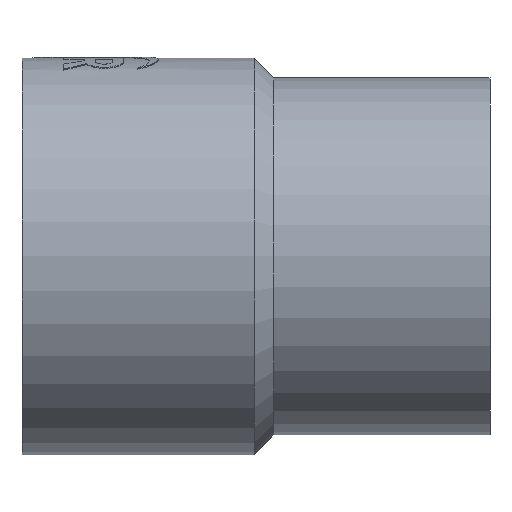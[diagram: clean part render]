
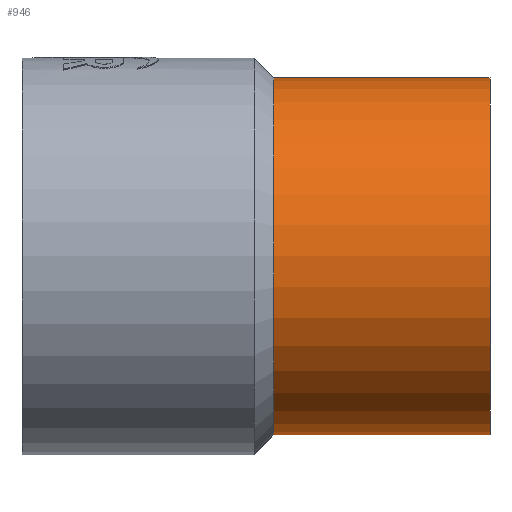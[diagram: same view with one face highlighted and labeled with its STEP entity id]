
A CAD part, front view. The second image highlights one B-rep face of the part: STEP entity #946.
In plain terms, the highlighted cylindrical face has radius 90 mm (diameter 180 mm), a partial arc.
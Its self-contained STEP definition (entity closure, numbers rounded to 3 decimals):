
#18 = ORIENTED_EDGE ( 'NONE', *, *, #3399, .F. ) ;
#30 = ORIENTED_EDGE ( 'NONE', *, *, #1086, .T. ) ;
#70 = ORIENTED_EDGE ( 'NONE', *, *, #3539, .T. ) ;
#75 = LINE ( 'NONE', #1226, #2010 ) ;
#76 = ORIENTED_EDGE ( 'NONE', *, *, #1060, .F. ) ;
#230 = CARTESIAN_POINT ( 'NONE',  ( 236., 0., 90. ) ) ;
#250 = DIRECTION ( 'NONE',  ( -1., 0., 0. ) ) ;
#416 = DIRECTION ( 'NONE',  ( 0., 0., 1. ) ) ;
#420 = DIRECTION ( 'NONE',  ( -1., 0., 0. ) ) ;
#422 = CARTESIAN_POINT ( 'NONE',  ( 236., 0., 0. ) ) ;
#441 = CYLINDRICAL_SURFACE ( 'NONE', #1624, 90. ) ;
#507 = DIRECTION ( 'NONE',  ( 0., 0., 1. ) ) ;
#516 = DIRECTION ( 'NONE',  ( -1., 0., 0. ) ) ;
#693 = CARTESIAN_POINT ( 'NONE',  ( -0.3, 0., 90. ) ) ;
#718 = CARTESIAN_POINT ( 'NONE',  ( 127., 0., 90. ) ) ;
#946 = ADVANCED_FACE ( 'NONE', ( #2286 ), #441, .T. ) ;
#994 = VERTEX_POINT ( 'NONE', #718 ) ;
#1060 = EDGE_CURVE ( 'NONE', #3160, #994, #2526, .T. ) ;
#1080 = DIRECTION ( 'NONE',  ( 0., 0., 1. ) ) ;
#1086 = EDGE_CURVE ( 'NONE', #2614, #1204, #1409, .T. ) ;
#1095 = EDGE_LOOP ( 'NONE', ( #18, #30, #70, #76 ) ) ;
#1147 = DIRECTION ( 'NONE',  ( -1., 0., 0. ) ) ;
#1190 = CARTESIAN_POINT ( 'NONE',  ( 127., 0., 0. ) ) ;
#1204 = VERTEX_POINT ( 'NONE', #230 ) ;
#1226 = CARTESIAN_POINT ( 'NONE',  ( -0.3, 0., -90. ) ) ;
#1250 = CARTESIAN_POINT ( 'NONE',  ( -0.3, 0., 0. ) ) ;
#1409 = CIRCLE ( 'NONE', #2889, 90. ) ;
#1624 = AXIS2_PLACEMENT_3D ( 'NONE', #1250, #1147, #1080 ) ;
#1805 = DIRECTION ( 'NONE',  ( -1., 0., 0. ) ) ;
#2010 = VECTOR ( 'NONE', #250, 1000. ) ;
#2286 = FACE_OUTER_BOUND ( 'NONE', #1095, .T. ) ;
#2470 = CARTESIAN_POINT ( 'NONE',  ( 127., 0., -90. ) ) ;
#2526 = CIRCLE ( 'NONE', #3154, 90. ) ;
#2614 = VERTEX_POINT ( 'NONE', #3198 ) ;
#2829 = LINE ( 'NONE', #693, #3445 ) ;
#2889 = AXIS2_PLACEMENT_3D ( 'NONE', #422, #420, #416 ) ;
#3154 = AXIS2_PLACEMENT_3D ( 'NONE', #1190, #516, #507 ) ;
#3160 = VERTEX_POINT ( 'NONE', #2470 ) ;
#3198 = CARTESIAN_POINT ( 'NONE',  ( 236., 0., -90. ) ) ;
#3399 = EDGE_CURVE ( 'NONE', #2614, #3160, #75, .T. ) ;
#3445 = VECTOR ( 'NONE', #1805, 1000. ) ;
#3539 = EDGE_CURVE ( 'NONE', #1204, #994, #2829, .T. ) ;
